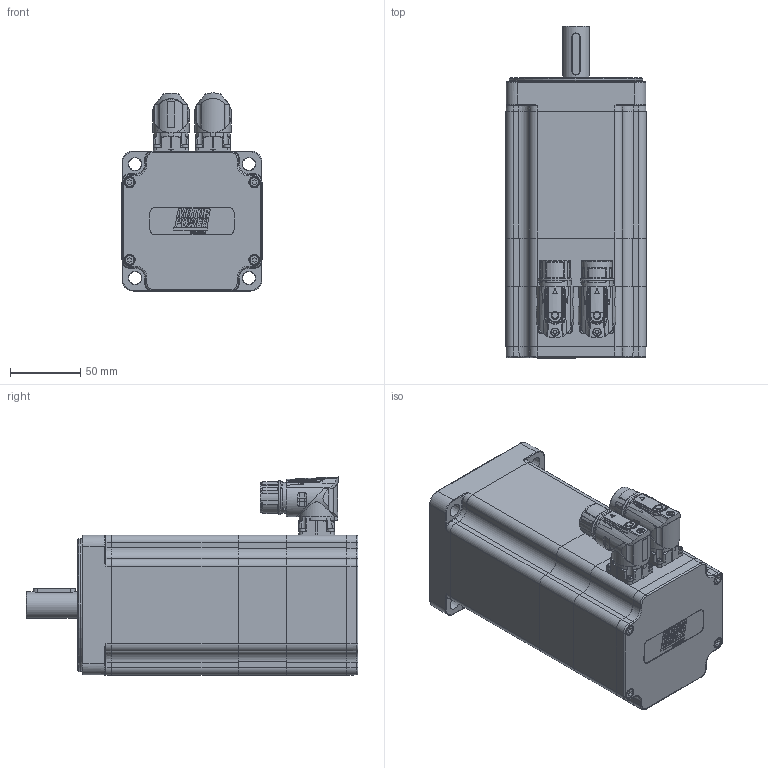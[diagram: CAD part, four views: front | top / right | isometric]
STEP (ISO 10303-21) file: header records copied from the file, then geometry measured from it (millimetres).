
FILE_DESCRIPTION(/* description */ ('Unknown'),/* implementation_level */ '2;1');
FILE_NAME(/* name */ 'TC4-100.4A.XX.X.3.M1.1.1.G2.31.80 Q0BQ10',/* time_stamp */ '2026-03-04T14:58:38+01:00',/* author */ ('Unknown'),/* organization */ ('Unknown'),/* preprocessor_version */ 'ST-DEVELOPER v19.4',/* originating_system */ 'Solid Edge',/* authorisation */ 'Unknown');
FILE_SCHEMA (('AUTOMOTIVE_DESIGN {1 0 10303 214 3 1 1}'));
Products named in the file (14): Q0BQ10 4A FRENO M1 VUOTO; 003107003287; 005911000185; 005119000312; 003003200459; 003103040222; 003155002223; 005911000208; 007117000454; 007117000456; 003151003168; 003251040721; 005911000252; 005113000500
Assembly tree (26 placements, depth 2):
  Q0BQ10 4A FRENO M1 VUOTO
    003107003287
    005911000185  x8
    005119000312
    003003200459
    003103040222
    003155002223
    005911000208  x4
    007117000454
    007117000456
    003151003168
    003251040721
    005911000252  x4
    005113000500
Bounding box: 100 x 237 x 141.5 mm (x, y, z)
Volume: 738160.7 mm3; surface area: 273832.9 mm2
Topology: 28 solids, 28 shells, 2264 faces, 5666 edges, 3625 vertices
Faces by surface type: plane 985, cylinder 541, cone 286, bspline 271, torus 108, sphere 73
Full cylindrical faces by diameter (mm): 0.5 x1, 1 x21, 1.2 x17, 1.4 x4, 2 x4, 2.013 x12, 2.459 x2, 2.5 x8, 2.8 x4, 3 x12, 3.2 x1, 3.242 x46, 3.3 x1, 4 x9, 4.5 x18, 4.7 x8, 4.917 x1, 5.5 x2, 5.8 x1, 5.9 x2, 6 x1, 6.4 x1, 6.8 x1, 7 x8, 8 x10, 8.004 x4, 10 x1, 15.2 x1, 16 x1, 16.99 x1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
Entity records: 80477 total; most frequent: CARTESIAN_POINT 21232, ORIENTED_EDGE 9290, DIRECTION 8831, EDGE_CURVE 4645, AXIS2_PLACEMENT_3D 3416, VERTEX_POINT 3228, FACE_BOUND 2773, EDGE_LOOP 2741
